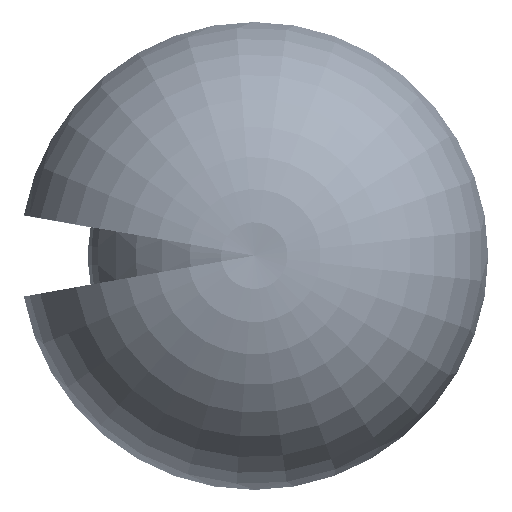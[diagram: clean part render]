
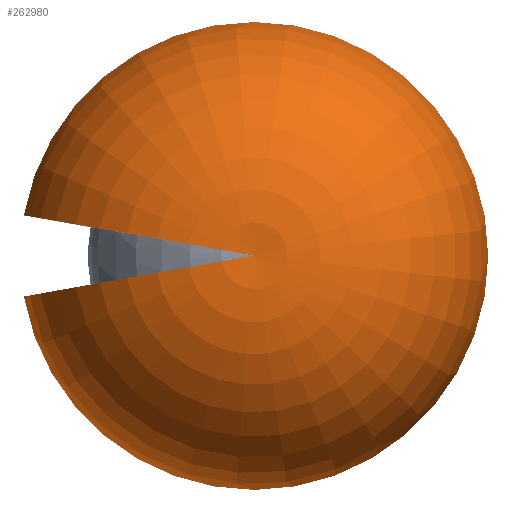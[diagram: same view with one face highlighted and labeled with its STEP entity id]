
A CAD part, top view. The second image highlights one B-rep face of the part: STEP entity #262980.
In plain terms, the highlighted toroidal (fillet/blend) face has major radius 350 mm and minor radius 2453.88 mm.
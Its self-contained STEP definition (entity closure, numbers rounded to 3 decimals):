
#7870 = CIRCLE ( 'NONE', #282442, 2453.884 ) ;
#34334 = AXIS2_PLACEMENT_3D ( 'NONE', #281623, #97549, #95149 ) ;
#43196 = DIRECTION ( 'NONE',  ( 0., 1., 0. ) ) ;
#56991 = VERTEX_POINT ( 'NONE', #361384 ) ;
#59586 = CARTESIAN_POINT ( 'NONE',  ( -2752.091, -485.268, 993.87 ) ) ;
#75418 = ORIENTED_EDGE ( 'NONE', *, *, #281674, .F. ) ;
#95149 = DIRECTION ( 'NONE',  ( 0., 1., 0. ) ) ;
#97549 = DIRECTION ( 'NONE',  ( 0., 0., -1. ) ) ;
#135467 = AXIS2_PLACEMENT_3D ( 'NONE', #400434, #289951, #181779 ) ;
#163271 = DIRECTION ( 'NONE',  ( -0.174, 0.985, 0. ) ) ;
#181779 = DIRECTION ( 'NONE',  ( 0.985, -0.174, 0. ) ) ;
#190728 = EDGE_CURVE ( 'NONE', #245789, #328492, #7870, .T. ) ;
#245789 = VERTEX_POINT ( 'NONE', #59586 ) ;
#245954 = CIRCLE ( 'NONE', #34334, 2794.546 ) ;
#262980 = ADVANCED_FACE ( 'NONE', ( #453157 ), #423403, .T. ) ;
#268864 = CARTESIAN_POINT ( 'NONE',  ( -344.683, -60.777, 780. ) ) ;
#281623 = CARTESIAN_POINT ( 'NONE',  ( 0., 0., 993.87 ) ) ;
#281674 = EDGE_CURVE ( 'NONE', #56991, #245789, #245954, .T. ) ;
#282209 = AXIS2_PLACEMENT_3D ( 'NONE', #482634, #335562, #43196 ) ;
#282442 = AXIS2_PLACEMENT_3D ( 'NONE', #268864, #163271, #350049 ) ;
#289951 = DIRECTION ( 'NONE',  ( 0.174, 0.985, 0. ) ) ;
#328492 = VERTEX_POINT ( 'NONE', #441919 ) ;
#335562 = DIRECTION ( 'NONE',  ( 0., 0., -1. ) ) ;
#350049 = DIRECTION ( 'NONE',  ( 0.985, 0.174, 0. ) ) ;
#361384 = CARTESIAN_POINT ( 'NONE',  ( -2752.091, 485.268, 993.87 ) ) ;
#379329 = ORIENTED_EDGE ( 'NONE', *, *, #190728, .F. ) ;
#386567 = EDGE_LOOP ( 'NONE', ( #379329, #75418, #452299 ) ) ;
#400434 = CARTESIAN_POINT ( 'NONE',  ( -344.683, 60.777, 780. ) ) ;
#403999 = EDGE_CURVE ( 'NONE', #56991, #328492, #456746, .T. ) ;
#423403 = TOROIDAL_SURFACE ( 'NONE', #282209, 350., 2453.884 ) ;
#441919 = CARTESIAN_POINT ( 'NONE',  ( 0., 0., 3208.795 ) ) ;
#452299 = ORIENTED_EDGE ( 'NONE', *, *, #403999, .T. ) ;
#453157 = FACE_OUTER_BOUND ( 'NONE', #386567, .T. ) ;
#456746 = CIRCLE ( 'NONE', #135467, 2453.884 ) ;
#482634 = CARTESIAN_POINT ( 'NONE',  ( 0., 0., 780. ) ) ;
